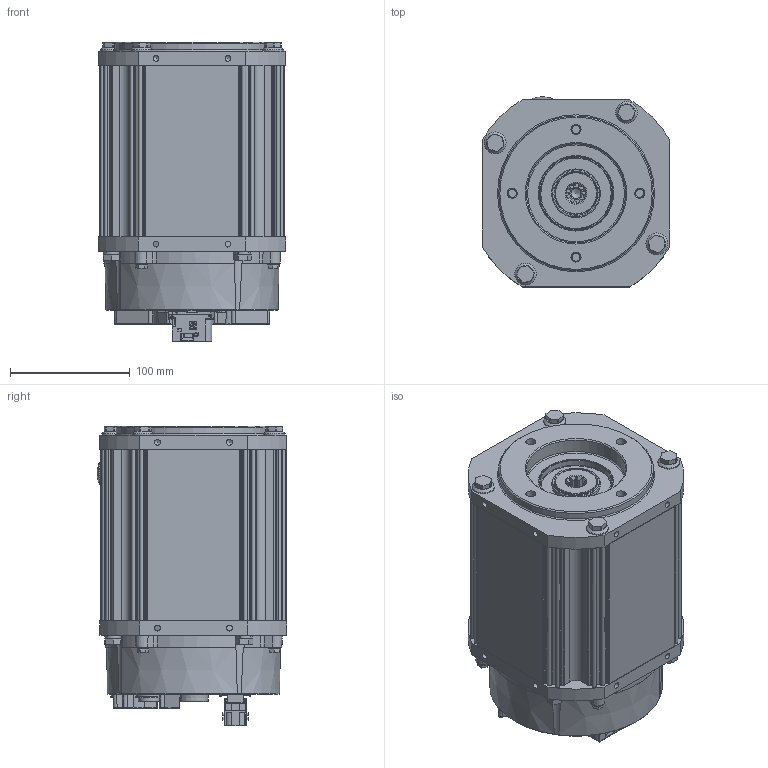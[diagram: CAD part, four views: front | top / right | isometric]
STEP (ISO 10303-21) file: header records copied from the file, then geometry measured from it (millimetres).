
FILE_DESCRIPTION(/* description */ (''),/* implementation_level */ '2;1');
FILE_NAME(/* name */ 'Q:\04-Moteurs\NX8 Low Voltage Mobile\11-Marketing\STEP\NX820M-SAEA.stp',/* time_stamp */ '2022-06-30T16:09:33+02:00',/* author */ ('522050'),/* organization */ (''),/* preprocessor_version */ 'ST-DEVELOPER v18.1',/* originating_system */ 'Autodesk Inventor 2020',/* authorisation */ '');
FILE_SCHEMA (('AUTOMOTIVE_DESIGN { 1 0 10303 214 3 1 1 }'));
Products named in the file (1): NX820M_2
Bounding box: 156 x 158.48 x 250.1 mm (x, y, z)
Volume: 4401854.1 mm3; surface area: 230512.6 mm2
Topology: 1 solids, 38 shells, 1938 faces, 4938 edges, 3169 vertices
Faces by surface type: plane 891, cylinder 621, cone 165, torus 121, bspline 109, sphere 31
Full cylindrical faces by diameter (mm): 2 x6, 3.5 x1, 4.134 x4, 4.917 x19, 5 x4, 5.5 x4, 6 x1, 6.647 x8, 8 x8, 8.376 x5, 8.5 x8, 11.2 x4, 12 x1, 13 x4, 14.5 x1, 15 x1, 16 x1, 16.55 x1, 17 x5, 18 x6, 18.1 x2, 18.2 x4, 19 x1, 34.8 x1, 35 x1, 39.2 x1, 59.5 x1, 62 x2, 82.7 x1, 129 x1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
Entity records: 70516 total; most frequent: CARTESIAN_POINT 21454, DIRECTION 9880, ORIENTED_EDGE 9826, EDGE_CURVE 4913, AXIS2_PLACEMENT_3D 3633, VERTEX_POINT 3169, LINE 2614, VECTOR 2614
